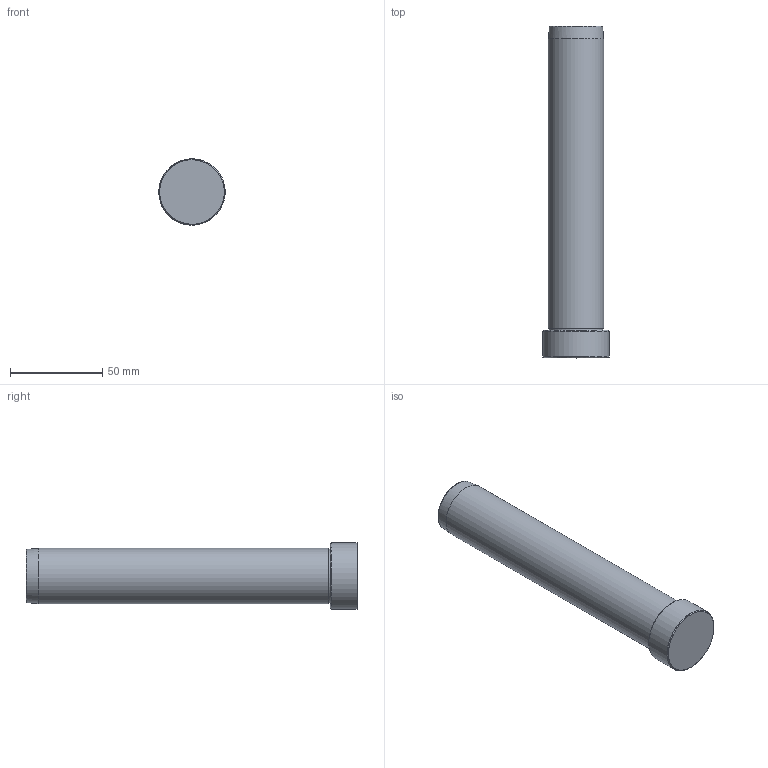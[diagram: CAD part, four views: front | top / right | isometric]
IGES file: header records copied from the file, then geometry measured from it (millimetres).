
Start section: Missler Software BP 521, 31674 Labege Cedex, France Tel   : +33 (0)5 61 00 03 00 Fax   : +33 (0)5 61 00 03 03 Email : sup.topsolid@topsolid.com
Global section: file name: D:\Cuma\24 03 2009\D01D\D01D_30X180.igs; native system: TopSolid v605250 Missler Software; preprocessor: IGES preprocessor v100000; date: 030101.001719; units: millimetre
Bounding box: 35.89 x 180 x 36 mm (x, y, z)
Surface area: 19211.2 mm2 (no closed solid volume)
Topology: 0 solids, 0 shells, 11 faces, 216 edges, 210 vertices
Faces by surface type: bspline 11
